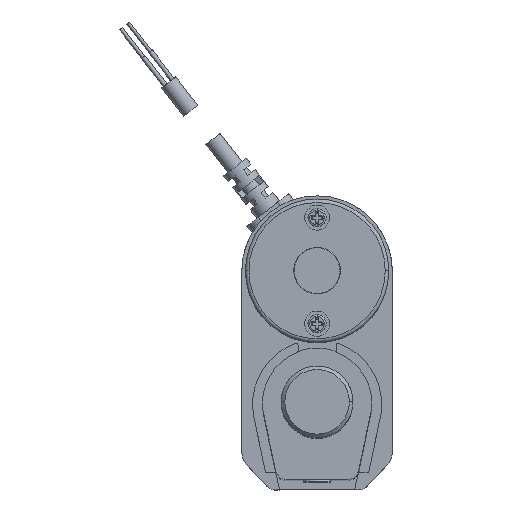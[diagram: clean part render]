
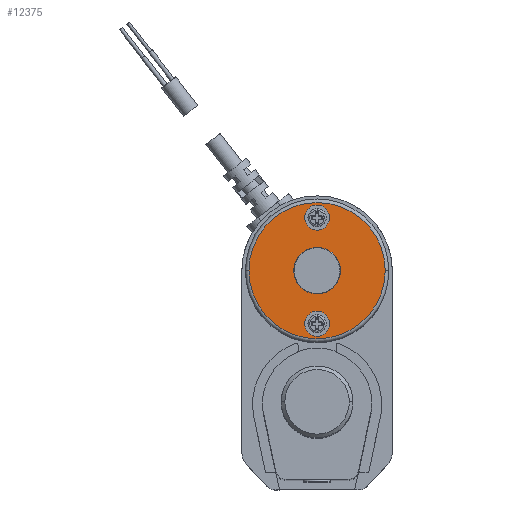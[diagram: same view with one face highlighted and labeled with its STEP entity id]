
A CAD part, top view. The second image highlights one B-rep face of the part: STEP entity #12375.
In plain terms, the highlighted planar face has unit normal (0, 0, 1).
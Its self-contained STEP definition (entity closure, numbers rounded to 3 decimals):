
#215 = DIRECTION ( 'NONE',  ( 0., 0., 1. ) ) ;
#361 = CARTESIAN_POINT ( 'NONE',  ( 0., 21.154, 95. ) ) ;
#1042 = PLANE ( 'NONE',  #4795 ) ;
#1138 = DIRECTION ( 'NONE',  ( -1., 0., 0. ) ) ;
#1456 = CIRCLE ( 'NONE', #7827, 19. ) ;
#1660 = ORIENTED_EDGE ( 'NONE', *, *, #11716, .F. ) ;
#2254 = CARTESIAN_POINT ( 'NONE',  ( -1.5, 35.954, 95. ) ) ;
#2441 = EDGE_LOOP ( 'NONE', ( #8924, #4827 ) ) ;
#2889 = CARTESIAN_POINT ( 'NONE',  ( 1.5, 35.954, 95. ) ) ;
#3020 = FACE_BOUND ( 'NONE', #13967, .T. ) ;
#4504 = VERTEX_POINT ( 'NONE', #2254 ) ;
#4540 = DIRECTION ( 'NONE',  ( -1., 0., 0. ) ) ;
#4683 = CARTESIAN_POINT ( 'NONE',  ( 0., 6.354, 95. ) ) ;
#4795 = AXIS2_PLACEMENT_3D ( 'NONE', #5792, #15277, #4540 ) ;
#4827 = ORIENTED_EDGE ( 'NONE', *, *, #12610, .T. ) ;
#4959 = AXIS2_PLACEMENT_3D ( 'NONE', #4683, #14374, #1138 ) ;
#5116 = ORIENTED_EDGE ( 'NONE', *, *, #10582, .F. ) ;
#5268 = EDGE_CURVE ( 'NONE', #13090, #14609, #5775, .T. ) ;
#5346 = CARTESIAN_POINT ( 'NONE',  ( -19., 21.154, 95. ) ) ;
#5661 = DIRECTION ( 'NONE',  ( 0., 0., 1. ) ) ;
#5775 = CIRCLE ( 'NONE', #9741, 19. ) ;
#5792 = CARTESIAN_POINT ( 'NONE',  ( 0., 21.154, 95. ) ) ;
#5857 = DIRECTION ( 'NONE',  ( 0., 0., 1. ) ) ;
#5981 = DIRECTION ( 'NONE',  ( -1., 0., 0. ) ) ;
#6082 = DIRECTION ( 'NONE',  ( 0., 0., 1. ) ) ;
#6190 = DIRECTION ( 'NONE',  ( -1., 0., 0. ) ) ;
#6409 = DIRECTION ( 'NONE',  ( -1., 0., 0. ) ) ;
#7057 = DIRECTION ( 'NONE',  ( -1., 0., 0. ) ) ;
#7240 = CARTESIAN_POINT ( 'NONE',  ( 0., 35.954, 95. ) ) ;
#7695 = ORIENTED_EDGE ( 'NONE', *, *, #13402, .F. ) ;
#7827 = AXIS2_PLACEMENT_3D ( 'NONE', #361, #215, #6409 ) ;
#7954 = CIRCLE ( 'NONE', #4959, 1.5 ) ;
#8281 = EDGE_CURVE ( 'NONE', #8579, #10959, #7954, .T. ) ;
#8323 = CARTESIAN_POINT ( 'NONE',  ( 0., 35.954, 95. ) ) ;
#8579 = VERTEX_POINT ( 'NONE', #13156 ) ;
#8924 = ORIENTED_EDGE ( 'NONE', *, *, #5268, .T. ) ;
#9021 = CARTESIAN_POINT ( 'NONE',  ( -1.5, 6.354, 95. ) ) ;
#9379 = CARTESIAN_POINT ( 'NONE',  ( 0., 6.354, 95. ) ) ;
#9741 = AXIS2_PLACEMENT_3D ( 'NONE', #11065, #14519, #6190 ) ;
#10325 = AXIS2_PLACEMENT_3D ( 'NONE', #9379, #5661, #15250 ) ;
#10582 = EDGE_CURVE ( 'NONE', #10920, #4504, #10786, .T. ) ;
#10786 = CIRCLE ( 'NONE', #12817, 1.5 ) ;
#10920 = VERTEX_POINT ( 'NONE', #2889 ) ;
#10959 = VERTEX_POINT ( 'NONE', #9021 ) ;
#11065 = CARTESIAN_POINT ( 'NONE',  ( 0., 21.154, 95. ) ) ;
#11478 = CIRCLE ( 'NONE', #14947, 1.5 ) ;
#11716 = EDGE_CURVE ( 'NONE', #10959, #8579, #13010, .T. ) ;
#12375 = ADVANCED_FACE ( 'NONE', ( #3020, #13563, #12806 ), #1042, .T. ) ;
#12377 = EDGE_LOOP ( 'NONE', ( #1660, #14664 ) ) ;
#12610 = EDGE_CURVE ( 'NONE', #14609, #13090, #1456, .T. ) ;
#12806 = FACE_OUTER_BOUND ( 'NONE', #2441, .T. ) ;
#12817 = AXIS2_PLACEMENT_3D ( 'NONE', #7240, #6082, #5981 ) ;
#13010 = CIRCLE ( 'NONE', #10325, 1.5 ) ;
#13090 = VERTEX_POINT ( 'NONE', #5346 ) ;
#13156 = CARTESIAN_POINT ( 'NONE',  ( 1.5, 6.354, 95. ) ) ;
#13402 = EDGE_CURVE ( 'NONE', #4504, #10920, #11478, .T. ) ;
#13563 = FACE_BOUND ( 'NONE', #12377, .T. ) ;
#13967 = EDGE_LOOP ( 'NONE', ( #7695, #5116 ) ) ;
#14158 = CARTESIAN_POINT ( 'NONE',  ( 19., 21.154, 95. ) ) ;
#14374 = DIRECTION ( 'NONE',  ( 0., 0., 1. ) ) ;
#14519 = DIRECTION ( 'NONE',  ( 0., 0., 1. ) ) ;
#14609 = VERTEX_POINT ( 'NONE', #14158 ) ;
#14664 = ORIENTED_EDGE ( 'NONE', *, *, #8281, .F. ) ;
#14947 = AXIS2_PLACEMENT_3D ( 'NONE', #8323, #5857, #7057 ) ;
#15250 = DIRECTION ( 'NONE',  ( -1., 0., 0. ) ) ;
#15277 = DIRECTION ( 'NONE',  ( 0., 0., 1. ) ) ;
